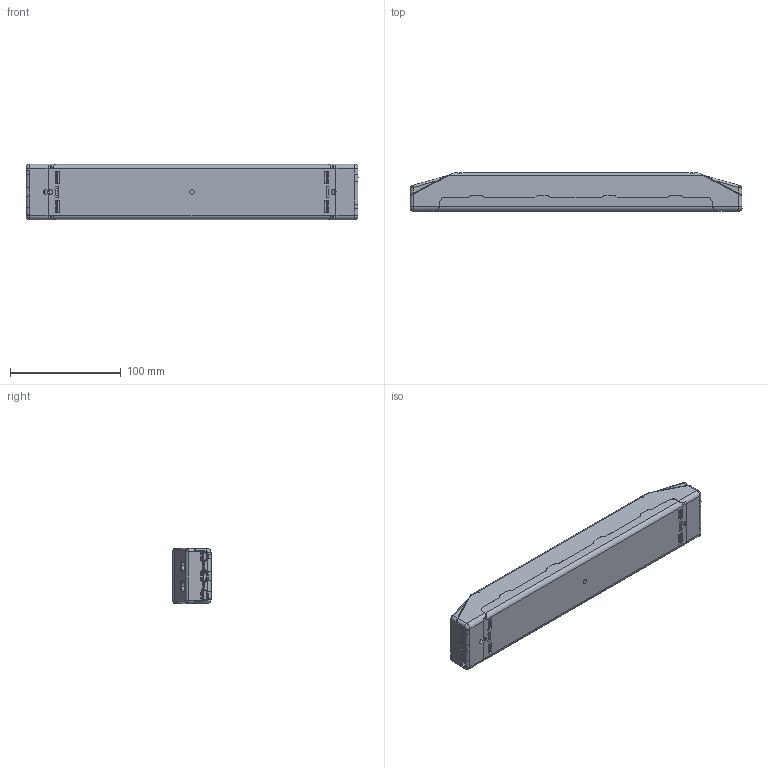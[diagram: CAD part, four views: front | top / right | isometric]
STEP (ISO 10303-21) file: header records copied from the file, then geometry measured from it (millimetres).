
FILE_DESCRIPTION (( 'STEP AP203' ), '1' );
FILE_NAME ('OTi160DALI-CV.STEP', '2018-04-16T07:33:52', ( '' ), ( '' ), 'SwSTEP 2.0', 'SolidWorks 2017', '' );
FILE_SCHEMA (( 'CONFIG_CONTROL_DESIGN' ));
Length unit declared in the file: millimetre
Products named in the file (1): OTi160DALI-CV
Bounding box: 300.16 x 34.4 x 50.16 mm (x, y, z)
Volume: 410323.4 mm3; surface area: 87232.4 mm2
Topology: 3 solids, 4 shells, 2356 faces, 6314 edges, 4006 vertices
Faces by surface type: plane 1187, bspline 550, cylinder 443, cone 176
Entity records: 98488 total; most frequent: CARTESIAN_POINT 46318, ORIENTED_EDGE 12594, DIRECTION 8098, EDGE_CURVE 6297, VERTEX_POINT 4006, VECTOR 3590, LINE 3590, EDGE_LOOP 2435
